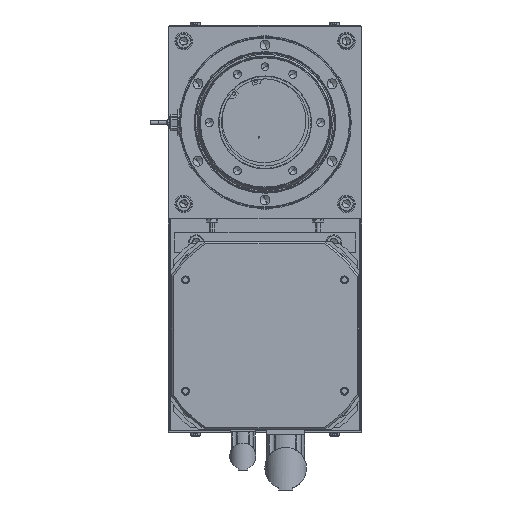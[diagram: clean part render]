
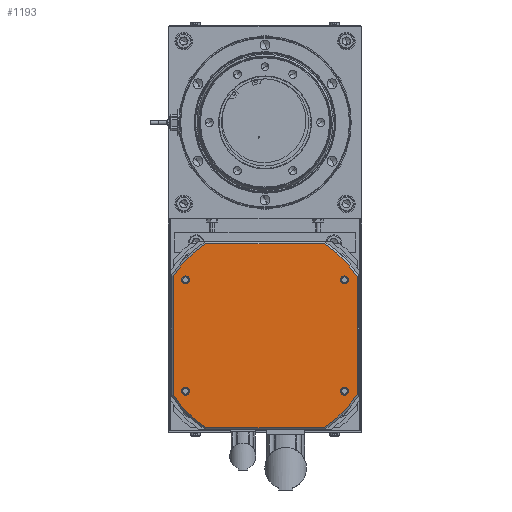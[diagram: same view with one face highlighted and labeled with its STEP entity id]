
A CAD part, front view. The second image highlights one B-rep face of the part: STEP entity #1193.
In plain terms, the highlighted planar face has unit normal (0, -1, 0).
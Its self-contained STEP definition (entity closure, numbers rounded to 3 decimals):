
#213 = DIRECTION ( 'NONE',  ( 0., -1., 0. ) ) ;
#262 = AXIS2_PLACEMENT_3D ( 'NONE', #6149, #34621, #6005 ) ;
#837 = CARTESIAN_POINT ( 'NONE',  ( 17.75, 553.5, -373.25 ) ) ;
#871 = VERTEX_POINT ( 'NONE', #39260 ) ;
#916 = CIRCLE ( 'NONE', #27501, 4. ) ;
#932 = CARTESIAN_POINT ( 'NONE',  ( 17.75, 553.5, -266.25 ) ) ;
#1070 = CARTESIAN_POINT ( 'NONE',  ( 102.293, 553.5, -322.293 ) ) ;
#1159 = CARTESIAN_POINT ( 'NONE',  ( 102.293, 553.5, -317.207 ) ) ;
#1193 = ADVANCED_FACE ( 'NONE', ( #26419, #3163, #10759, #11233, #27405 ), #31904, .F. ) ;
#2846 = ORIENTED_EDGE ( 'NONE', *, *, #9996, .T. ) ;
#3003 = ORIENTED_EDGE ( 'NONE', *, *, #3059, .T. ) ;
#3059 = EDGE_CURVE ( 'NONE', #5389, #28694, #4859, .T. ) ;
#3163 = FACE_BOUND ( 'NONE', #28581, .T. ) ;
#3302 = EDGE_CURVE ( 'NONE', #24667, #29106, #22583, .T. ) ;
#3751 = VERTEX_POINT ( 'NONE', #20453 ) ;
#3992 = EDGE_CURVE ( 'NONE', #3751, #23455, #15526, .T. ) ;
#4034 = CIRCLE ( 'NONE', #38356, 116.5 ) ;
#4670 = VECTOR ( 'NONE', #31308, 1000. ) ;
#4859 = CIRCLE ( 'NONE', #17708, 116.5 ) ;
#4945 = ORIENTED_EDGE ( 'NONE', *, *, #33822, .T. ) ;
#5389 = VERTEX_POINT ( 'NONE', #22933 ) ;
#6005 = DIRECTION ( 'NONE',  ( 0., 0., 1. ) ) ;
#6124 = CARTESIAN_POINT ( 'NONE',  ( 160.908, 553.5, -414.75 ) ) ;
#6149 = CARTESIAN_POINT ( 'NONE',  ( 97.207, 553.5, -317.207 ) ) ;
#6511 = CARTESIAN_POINT ( 'NONE',  ( 17.75, 553.5, -258.25 ) ) ;
#6539 = EDGE_CURVE ( 'NONE', #23455, #3751, #16275, .T. ) ;
#6963 = DIRECTION ( 'NONE',  ( 0., 0., 1. ) ) ;
#7048 = CIRCLE ( 'NONE', #18431, 116.5 ) ;
#8646 = VECTOR ( 'NONE', #34504, 1000. ) ;
#9835 = ORIENTED_EDGE ( 'NONE', *, *, #41074, .F. ) ;
#9861 = ORIENTED_EDGE ( 'NONE', *, *, #12356, .T. ) ;
#9996 = EDGE_CURVE ( 'NONE', #41640, #20826, #17761, .T. ) ;
#10254 = EDGE_CURVE ( 'NONE', #26287, #25097, #30462, .T. ) ;
#10482 = AXIS2_PLACEMENT_3D ( 'NONE', #1159, #16977, #39412 ) ;
#10759 = FACE_BOUND ( 'NONE', #30927, .T. ) ;
#10895 = DIRECTION ( 'NONE',  ( 0., 0., 1. ) ) ;
#11228 = CIRCLE ( 'NONE', #21165, 4. ) ;
#11233 = FACE_BOUND ( 'NONE', #11292, .T. ) ;
#11292 = EDGE_LOOP ( 'NONE', ( #21923, #24629 ) ) ;
#11511 = VERTEX_POINT ( 'NONE', #33347 ) ;
#11593 = CIRCLE ( 'NONE', #10482, 116.5 ) ;
#12213 = DIRECTION ( 'NONE',  ( 0., 0., 1. ) ) ;
#12287 = CARTESIAN_POINT ( 'NONE',  ( 4.75, 553.5, -258.592 ) ) ;
#12356 = EDGE_CURVE ( 'NONE', #11511, #41640, #4034, .T. ) ;
#12425 = CARTESIAN_POINT ( 'NONE',  ( 181.75, 553.5, -266.25 ) ) ;
#13177 = DIRECTION ( 'NONE',  ( 0., -1., 0. ) ) ;
#13932 = AXIS2_PLACEMENT_3D ( 'NONE', #31927, #38366, #28832 ) ;
#13977 = DIRECTION ( 'NONE',  ( 0., 0., 1. ) ) ;
#15526 = CIRCLE ( 'NONE', #30239, 4. ) ;
#15781 = DIRECTION ( 'NONE',  ( 0., 0., 1. ) ) ;
#16056 = CARTESIAN_POINT ( 'NONE',  ( 17.75, 553.5, -262.25 ) ) ;
#16119 = DIRECTION ( 'NONE',  ( 0., 0., -1. ) ) ;
#16275 = CIRCLE ( 'NONE', #37514, 4. ) ;
#16314 = CARTESIAN_POINT ( 'NONE',  ( 181.75, 553.5, -377.25 ) ) ;
#16682 = EDGE_CURVE ( 'NONE', #871, #37150, #33351, .T. ) ;
#16977 = DIRECTION ( 'NONE',  ( 0., -1., 0. ) ) ;
#17338 = CARTESIAN_POINT ( 'NONE',  ( 17.75, 553.5, -377.25 ) ) ;
#17578 = CARTESIAN_POINT ( 'NONE',  ( 17.75, 553.5, -381.25 ) ) ;
#17708 = AXIS2_PLACEMENT_3D ( 'NONE', #34048, #27554, #21424 ) ;
#17761 = LINE ( 'NONE', #39112, #38132 ) ;
#18264 = CARTESIAN_POINT ( 'NONE',  ( 194.75, 553.5, -317.207 ) ) ;
#18431 = AXIS2_PLACEMENT_3D ( 'NONE', #18478, #24916, #41368 ) ;
#18478 = CARTESIAN_POINT ( 'NONE',  ( 97.207, 553.5, -317.207 ) ) ;
#19069 = EDGE_LOOP ( 'NONE', ( #4945, #28385, #30359, #32966, #3003, #30889, #9861, #2846 ) ) ;
#20453 = CARTESIAN_POINT ( 'NONE',  ( 181.75, 553.5, -373.25 ) ) ;
#20759 = LINE ( 'NONE', #25029, #8646 ) ;
#20795 = CIRCLE ( 'NONE', #23717, 4. ) ;
#20826 = VERTEX_POINT ( 'NONE', #21070 ) ;
#21040 = ORIENTED_EDGE ( 'NONE', *, *, #3302, .F. ) ;
#21070 = CARTESIAN_POINT ( 'NONE',  ( 4.75, 553.5, -380.908 ) ) ;
#21165 = AXIS2_PLACEMENT_3D ( 'NONE', #33440, #40183, #13977 ) ;
#21424 = DIRECTION ( 'NONE',  ( 0., 0., 1. ) ) ;
#21923 = ORIENTED_EDGE ( 'NONE', *, *, #10254, .F. ) ;
#22583 = CIRCLE ( 'NONE', #27525, 4. ) ;
#22638 = EDGE_LOOP ( 'NONE', ( #31038, #30857 ) ) ;
#22933 = CARTESIAN_POINT ( 'NONE',  ( 194.75, 553.5, -258.592 ) ) ;
#23321 = CARTESIAN_POINT ( 'NONE',  ( 194.75, 553.5, -380.908 ) ) ;
#23455 = VERTEX_POINT ( 'NONE', #39661 ) ;
#23717 = AXIS2_PLACEMENT_3D ( 'NONE', #17338, #30350, #10895 ) ;
#23768 = EDGE_CURVE ( 'NONE', #25097, #26287, #11228, .T. ) ;
#24629 = ORIENTED_EDGE ( 'NONE', *, *, #23768, .F. ) ;
#24667 = VERTEX_POINT ( 'NONE', #932 ) ;
#24916 = DIRECTION ( 'NONE',  ( 0., -1., 0. ) ) ;
#25024 = DIRECTION ( 'NONE',  ( 0., -1., 0. ) ) ;
#25029 = CARTESIAN_POINT ( 'NONE',  ( 97.207, 553.5, -224.75 ) ) ;
#25097 = VERTEX_POINT ( 'NONE', #12425 ) ;
#25188 = ORIENTED_EDGE ( 'NONE', *, *, #3992, .F. ) ;
#25444 = LINE ( 'NONE', #18264, #4670 ) ;
#25511 = CARTESIAN_POINT ( 'NONE',  ( 97.207, 553.5, -414.75 ) ) ;
#25790 = DIRECTION ( 'NONE',  ( 1., 0., 0. ) ) ;
#26287 = VERTEX_POINT ( 'NONE', #36902 ) ;
#26381 = VERTEX_POINT ( 'NONE', #23321 ) ;
#26419 = FACE_OUTER_BOUND ( 'NONE', #19069, .T. ) ;
#27405 = FACE_BOUND ( 'NONE', #22638, .T. ) ;
#27501 = AXIS2_PLACEMENT_3D ( 'NONE', #32543, #13177, #39256 ) ;
#27506 = VERTEX_POINT ( 'NONE', #837 ) ;
#27525 = AXIS2_PLACEMENT_3D ( 'NONE', #16056, #29099, #15781 ) ;
#27554 = DIRECTION ( 'NONE',  ( 0., -1., 0. ) ) ;
#27832 = DIRECTION ( 'NONE',  ( 0., 0., 1. ) ) ;
#28323 = DIRECTION ( 'NONE',  ( 0., -1., 0. ) ) ;
#28385 = ORIENTED_EDGE ( 'NONE', *, *, #16682, .T. ) ;
#28581 = EDGE_LOOP ( 'NONE', ( #25188, #39519 ) ) ;
#28694 = VERTEX_POINT ( 'NONE', #40847 ) ;
#28832 = DIRECTION ( 'NONE',  ( 0., 0., 1. ) ) ;
#29099 = DIRECTION ( 'NONE',  ( 0., -1., 0. ) ) ;
#29106 = VERTEX_POINT ( 'NONE', #6511 ) ;
#30239 = AXIS2_PLACEMENT_3D ( 'NONE', #16314, #213, #6963 ) ;
#30289 = EDGE_CURVE ( 'NONE', #34748, #27506, #20795, .T. ) ;
#30350 = DIRECTION ( 'NONE',  ( 0., -1., 0. ) ) ;
#30359 = ORIENTED_EDGE ( 'NONE', *, *, #40002, .T. ) ;
#30462 = CIRCLE ( 'NONE', #40493, 4. ) ;
#30857 = ORIENTED_EDGE ( 'NONE', *, *, #30289, .F. ) ;
#30889 = ORIENTED_EDGE ( 'NONE', *, *, #31328, .T. ) ;
#30927 = EDGE_LOOP ( 'NONE', ( #9835, #21040 ) ) ;
#31038 = ORIENTED_EDGE ( 'NONE', *, *, #32896, .F. ) ;
#31308 = DIRECTION ( 'NONE',  ( 0., 0., 1. ) ) ;
#31328 = EDGE_CURVE ( 'NONE', #28694, #11511, #20759, .T. ) ;
#31904 = PLANE ( 'NONE',  #262 ) ;
#31927 = CARTESIAN_POINT ( 'NONE',  ( 17.75, 553.5, -377.25 ) ) ;
#32301 = VECTOR ( 'NONE', #25790, 1000. ) ;
#32543 = CARTESIAN_POINT ( 'NONE',  ( 17.75, 553.5, -262.25 ) ) ;
#32896 = EDGE_CURVE ( 'NONE', #27506, #34748, #36010, .T. ) ;
#32966 = ORIENTED_EDGE ( 'NONE', *, *, #37059, .T. ) ;
#33347 = CARTESIAN_POINT ( 'NONE',  ( 38.592, 553.5, -224.75 ) ) ;
#33351 = LINE ( 'NONE', #25511, #32301 ) ;
#33440 = CARTESIAN_POINT ( 'NONE',  ( 181.75, 553.5, -262.25 ) ) ;
#33822 = EDGE_CURVE ( 'NONE', #20826, #871, #11593, .T. ) ;
#34048 = CARTESIAN_POINT ( 'NONE',  ( 97.207, 553.5, -322.293 ) ) ;
#34504 = DIRECTION ( 'NONE',  ( -1., 0., 0. ) ) ;
#34621 = DIRECTION ( 'NONE',  ( 0., 1., 0. ) ) ;
#34748 = VERTEX_POINT ( 'NONE', #17578 ) ;
#36010 = CIRCLE ( 'NONE', #13932, 4. ) ;
#36902 = CARTESIAN_POINT ( 'NONE',  ( 181.75, 553.5, -258.25 ) ) ;
#37059 = EDGE_CURVE ( 'NONE', #26381, #5389, #25444, .T. ) ;
#37150 = VERTEX_POINT ( 'NONE', #6124 ) ;
#37514 = AXIS2_PLACEMENT_3D ( 'NONE', #41269, #28323, #12213 ) ;
#37674 = DIRECTION ( 'NONE',  ( 0., -1., 0. ) ) ;
#37946 = CARTESIAN_POINT ( 'NONE',  ( 181.75, 553.5, -262.25 ) ) ;
#38132 = VECTOR ( 'NONE', #16119, 1000. ) ;
#38356 = AXIS2_PLACEMENT_3D ( 'NONE', #1070, #25024, #41617 ) ;
#38366 = DIRECTION ( 'NONE',  ( 0., -1., 0. ) ) ;
#39112 = CARTESIAN_POINT ( 'NONE',  ( 4.75, 553.5, -317.207 ) ) ;
#39256 = DIRECTION ( 'NONE',  ( 0., 0., 1. ) ) ;
#39260 = CARTESIAN_POINT ( 'NONE',  ( 38.592, 553.5, -414.75 ) ) ;
#39412 = DIRECTION ( 'NONE',  ( 0., 0., 1. ) ) ;
#39519 = ORIENTED_EDGE ( 'NONE', *, *, #6539, .F. ) ;
#39661 = CARTESIAN_POINT ( 'NONE',  ( 181.75, 553.5, -381.25 ) ) ;
#40002 = EDGE_CURVE ( 'NONE', #37150, #26381, #7048, .T. ) ;
#40183 = DIRECTION ( 'NONE',  ( 0., -1., 0. ) ) ;
#40493 = AXIS2_PLACEMENT_3D ( 'NONE', #37946, #37674, #27832 ) ;
#40847 = CARTESIAN_POINT ( 'NONE',  ( 160.908, 553.5, -224.75 ) ) ;
#41074 = EDGE_CURVE ( 'NONE', #29106, #24667, #916, .T. ) ;
#41269 = CARTESIAN_POINT ( 'NONE',  ( 181.75, 553.5, -377.25 ) ) ;
#41368 = DIRECTION ( 'NONE',  ( 0., 0., 1. ) ) ;
#41617 = DIRECTION ( 'NONE',  ( 0., 0., 1. ) ) ;
#41640 = VERTEX_POINT ( 'NONE', #12287 ) ;
